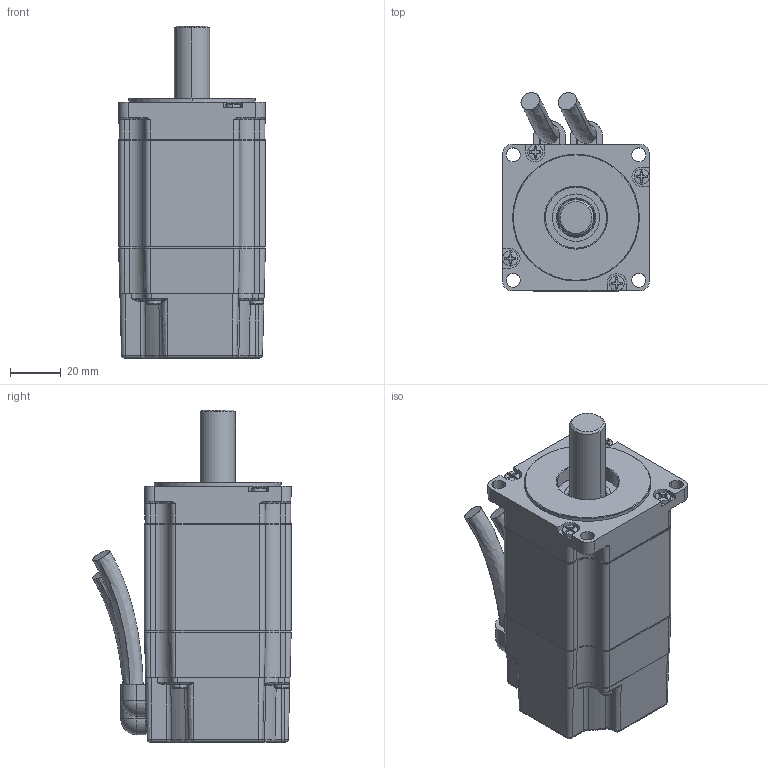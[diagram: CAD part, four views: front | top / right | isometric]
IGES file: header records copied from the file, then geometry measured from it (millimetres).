
Start section:  PTC IGES file: vlm21g.igs
Global section: file name: vlm21g.igs; native system: Pro/ENGINEER by Parametric Technology Corporation; preprocessor: 2006510; author: Ray.Dobbins; organization: Unknown; date: 20110726.092832; units: inch
Bounding box: 57.91 x 78.27 x 130.97 mm (x, y, z)
Surface area: 107516.1 mm2 (no closed solid volume)
Topology: 0 solids, 0 shells, 1824 faces, 9643 edges, 9633 vertices
Faces by surface type: revolution 1060, bspline 764
